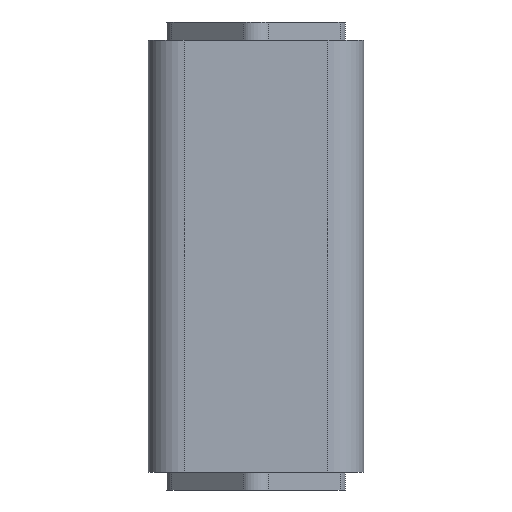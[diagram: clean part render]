
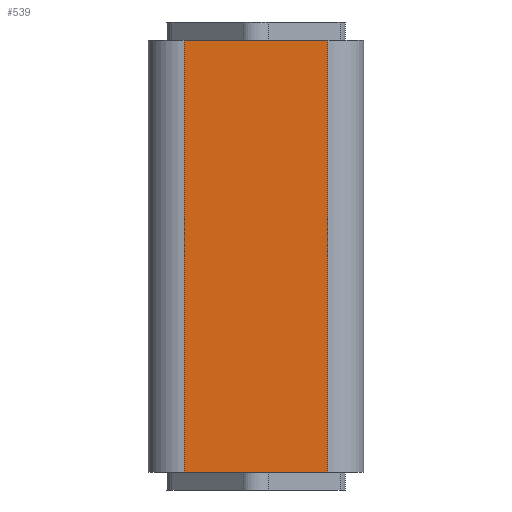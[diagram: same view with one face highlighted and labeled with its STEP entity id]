
A CAD part, front view. The second image highlights one B-rep face of the part: STEP entity #539.
In plain terms, the highlighted planar face has unit normal (0, -1, 0).
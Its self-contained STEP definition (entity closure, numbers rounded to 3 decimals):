
#481=CARTESIAN_POINT('',(20.,-30.,120.0));
#482=VERTEX_POINT('',#481);
#490=CARTESIAN_POINT('',(20.,-30.,0.0));
#491=VERTEX_POINT('',#490);
#492=CARTESIAN_POINT('',(20.,-30.,0.0));
#493=DIRECTION('',(0.0,0.0,1.0));
#494=VECTOR('',#493,120.0);
#495=LINE('',#492,#494);
#496=EDGE_CURVE('',#491,#482,#495,.T.);
#509=CARTESIAN_POINT('',(20.,-30.,0.0));
#510=DIRECTION('',(0.0,-1.0,0.0));
#511=DIRECTION('',(0.0,0.0,-1.0));
#512=AXIS2_PLACEMENT_3D('',#509,#510,#511);
#513=PLANE('',#512);
#514=CARTESIAN_POINT('',(-20.,-30.,120.0));
#515=VERTEX_POINT('',#514);
#516=CARTESIAN_POINT('',(20.,-30.,120.0));
#517=DIRECTION('',(-1.0,0.0,0.0));
#518=VECTOR('',#517,40.);
#519=LINE('',#516,#518);
#520=EDGE_CURVE('',#482,#515,#519,.T.);
#521=ORIENTED_EDGE('',*,*,#520,.T.);
#522=CARTESIAN_POINT('',(-20.,-30.,0.0));
#523=VERTEX_POINT('',#522);
#524=CARTESIAN_POINT('',(-20.,-30.,0.0));
#525=DIRECTION('',(0.0,0.0,1.0));
#526=VECTOR('',#525,120.0);
#527=LINE('',#524,#526);
#528=EDGE_CURVE('',#523,#515,#527,.T.);
#529=ORIENTED_EDGE('',*,*,#528,.F.);
#530=CARTESIAN_POINT('',(20.,-30.,0.0));
#531=DIRECTION('',(-1.0,0.0,0.0));
#532=VECTOR('',#531,40.);
#533=LINE('',#530,#532);
#534=EDGE_CURVE('',#491,#523,#533,.T.);
#535=ORIENTED_EDGE('',*,*,#534,.F.);
#536=ORIENTED_EDGE('',*,*,#496,.T.);
#537=EDGE_LOOP('',(#521,#529,#535,#536));
#538=FACE_OUTER_BOUND('',#537,.T.);
#539=ADVANCED_FACE('',(#538),#513,.T.);
